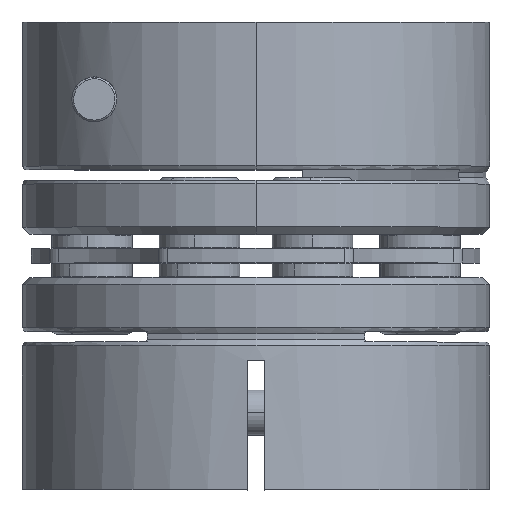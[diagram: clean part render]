
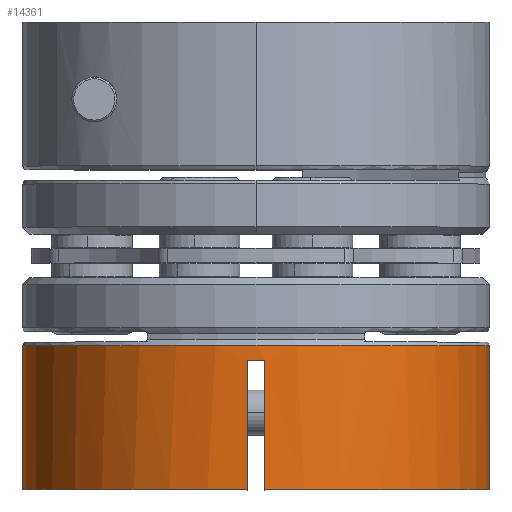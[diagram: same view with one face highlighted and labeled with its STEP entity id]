
A CAD part, top view. The second image highlights one B-rep face of the part: STEP entity #14361.
In plain terms, the highlighted cylindrical face has radius 13 mm (diameter 26 mm), a partial arc.
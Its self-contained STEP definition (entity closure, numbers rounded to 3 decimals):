
#25 = EDGE_LOOP ( 'NONE', ( #14976, #7740, #661, #22023, #18113, #16287, #366, #16097 ) ) ;
#123 = VERTEX_POINT ( 'NONE', #6902 ) ;
#366 = ORIENTED_EDGE ( 'NONE', *, *, #12465, .T. ) ;
#661 = ORIENTED_EDGE ( 'NONE', *, *, #18874, .F. ) ;
#753 = CARTESIAN_POINT ( 'NONE',  ( 1.922, -19.16, 13.003 ) ) ;
#1356 = VERTEX_POINT ( 'NONE', #8450 ) ;
#1543 = CARTESIAN_POINT ( 'NONE',  ( 1.255, -14.489, 12.99 ) ) ;
#1993 = EDGE_CURVE ( 'NONE', #5785, #14023, #6677, .T. ) ;
#2564 = VERTEX_POINT ( 'NONE', #5091 ) ;
#2685 = CARTESIAN_POINT ( 'NONE',  ( 2.255, -19.154, 12.99 ) ) ;
#2873 = AXIS2_PLACEMENT_3D ( 'NONE', #19535, #8888, #12230 ) ;
#3416 = CARTESIAN_POINT ( 'NONE',  ( 1.755, -26.289, 0. ) ) ;
#4098 = CARTESIAN_POINT ( 'NONE',  ( 2.255, -14.489, 12.99 ) ) ;
#4882 = VECTOR ( 'NONE', #11341, 1000. ) ;
#4940 = CARTESIAN_POINT ( 'NONE',  ( 1.755, -26.289, 0. ) ) ;
#4946 = DIRECTION ( 'NONE',  ( 0., -1., 0. ) ) ;
#5091 = CARTESIAN_POINT ( 'NONE',  ( -11.245, -18.289, 0. ) ) ;
#5187 = DIRECTION ( 'NONE',  ( 1., 0., 0. ) ) ;
#5268 = CARTESIAN_POINT ( 'NONE',  ( -11.245, -56.94, 0. ) ) ;
#5785 = VERTEX_POINT ( 'NONE', #14175 ) ;
#5804 = CARTESIAN_POINT ( 'NONE',  ( 2.255, -26.289, 12.99 ) ) ;
#6677 = CIRCLE ( 'NONE', #14410, 13. ) ;
#6902 = CARTESIAN_POINT ( 'NONE',  ( 14.755, -18.289, 0. ) ) ;
#7015 = VECTOR ( 'NONE', #9428, 1000. ) ;
#7204 = CARTESIAN_POINT ( 'NONE',  ( 1.755, -18.289, 0. ) ) ;
#7300 = FACE_OUTER_BOUND ( 'NONE', #25, .T. ) ;
#7740 = ORIENTED_EDGE ( 'NONE', *, *, #20923, .T. ) ;
#8450 = CARTESIAN_POINT ( 'NONE',  ( 1.255, -19.154, 12.99 ) ) ;
#8659 = DIRECTION ( 'NONE',  ( 0., -1., 0. ) ) ;
#8835 = LINE ( 'NONE', #5268, #13850 ) ;
#8888 = DIRECTION ( 'NONE',  ( 0., 1., 0. ) ) ;
#9428 = DIRECTION ( 'NONE',  ( 0., -1., 0. ) ) ;
#9600 = CARTESIAN_POINT ( 'NONE',  ( 1.255, -26.289, 12.99 ) ) ;
#9625 = CARTESIAN_POINT ( 'NONE',  ( 14.755, -56.94, 0. ) ) ;
#9632 = EDGE_CURVE ( 'NONE', #13350, #2564, #8835, .T. ) ;
#10048 = B_SPLINE_CURVE_WITH_KNOTS ( 'NONE', 3,
 ( #22089, #16867, #753, #2685 ),
 .UNSPECIFIED., .F., .F.,
 ( 4, 4 ),
 ( 0., 0.001 ),
 .UNSPECIFIED. ) ;
#10531 = DIRECTION ( 'NONE',  ( 0., 1., 0. ) ) ;
#11341 = DIRECTION ( 'NONE',  ( 0., 1., 0. ) ) ;
#11386 = CIRCLE ( 'NONE', #22225, 13. ) ;
#12230 = DIRECTION ( 'NONE',  ( -1., 0., 0. ) ) ;
#12465 = EDGE_CURVE ( 'NONE', #1356, #22942, #10048, .T. ) ;
#12874 = LINE ( 'NONE', #4098, #7015 ) ;
#13350 = VERTEX_POINT ( 'NONE', #21396 ) ;
#13624 = DIRECTION ( 'NONE',  ( 1., 0., 0. ) ) ;
#13850 = VECTOR ( 'NONE', #10531, 1000. ) ;
#13986 = DIRECTION ( 'NONE',  ( 0., 1., 0. ) ) ;
#14023 = VERTEX_POINT ( 'NONE', #5804 ) ;
#14175 = CARTESIAN_POINT ( 'NONE',  ( 14.755, -26.289, 0. ) ) ;
#14361 = ADVANCED_FACE ( 'NONE', ( #7300 ), #15387, .T. ) ;
#14410 = AXIS2_PLACEMENT_3D ( 'NONE', #3416, #8659, #5187 ) ;
#14491 = EDGE_CURVE ( 'NONE', #22942, #14023, #12874, .T. ) ;
#14976 = ORIENTED_EDGE ( 'NONE', *, *, #1993, .F. ) ;
#15387 = CYLINDRICAL_SURFACE ( 'NONE', #2873, 13. ) ;
#15420 = CIRCLE ( 'NONE', #20624, 13. ) ;
#16097 = ORIENTED_EDGE ( 'NONE', *, *, #14491, .T. ) ;
#16287 = ORIENTED_EDGE ( 'NONE', *, *, #18318, .F. ) ;
#16867 = CARTESIAN_POINT ( 'NONE',  ( 1.589, -19.16, 13.003 ) ) ;
#17196 = DIRECTION ( 'NONE',  ( 0., -1., 0. ) ) ;
#17999 = VERTEX_POINT ( 'NONE', #9600 ) ;
#18113 = ORIENTED_EDGE ( 'NONE', *, *, #22606, .F. ) ;
#18122 = CARTESIAN_POINT ( 'NONE',  ( 2.255, -19.154, 12.99 ) ) ;
#18318 = EDGE_CURVE ( 'NONE', #1356, #17999, #20217, .T. ) ;
#18874 = EDGE_CURVE ( 'NONE', #2564, #123, #11386, .T. ) ;
#19535 = CARTESIAN_POINT ( 'NONE',  ( 1.755, -56.94, 0. ) ) ;
#19655 = DIRECTION ( 'NONE',  ( -1., 0., 0. ) ) ;
#20217 = LINE ( 'NONE', #1543, #22453 ) ;
#20624 = AXIS2_PLACEMENT_3D ( 'NONE', #4940, #17196, #13624 ) ;
#20923 = EDGE_CURVE ( 'NONE', #5785, #123, #21350, .T. ) ;
#21350 = LINE ( 'NONE', #9625, #4882 ) ;
#21396 = CARTESIAN_POINT ( 'NONE',  ( -11.245, -26.289, 0. ) ) ;
#22023 = ORIENTED_EDGE ( 'NONE', *, *, #9632, .F. ) ;
#22089 = CARTESIAN_POINT ( 'NONE',  ( 1.255, -19.154, 12.99 ) ) ;
#22225 = AXIS2_PLACEMENT_3D ( 'NONE', #7204, #13986, #19655 ) ;
#22453 = VECTOR ( 'NONE', #4946, 1000. ) ;
#22606 = EDGE_CURVE ( 'NONE', #17999, #13350, #15420, .T. ) ;
#22942 = VERTEX_POINT ( 'NONE', #18122 ) ;
